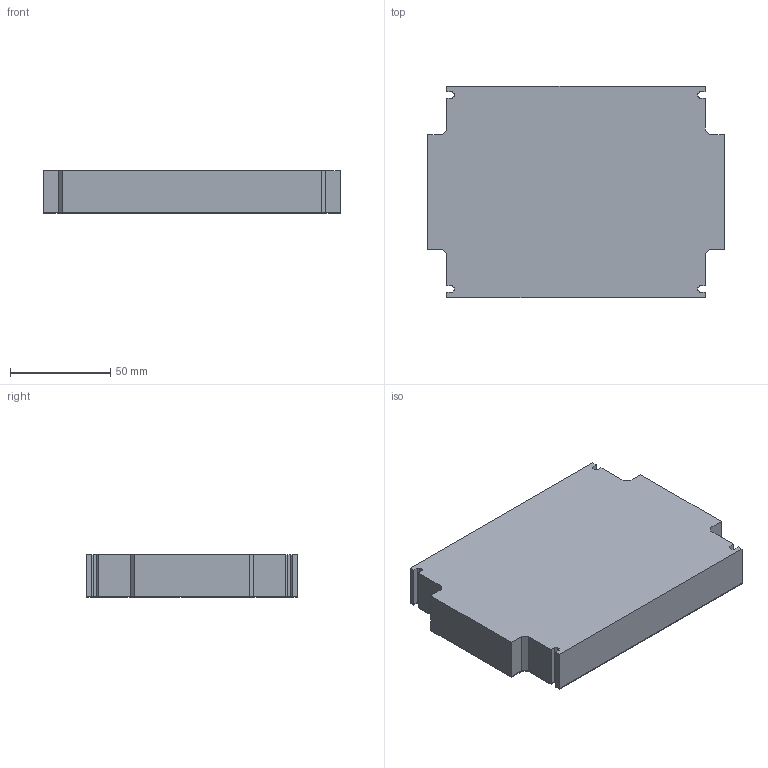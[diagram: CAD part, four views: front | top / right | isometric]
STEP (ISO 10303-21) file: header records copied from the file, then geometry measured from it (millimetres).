
FILE_DESCRIPTION(('Open CASCADE Model'),'2;1');
FILE_NAME('Open CASCADE Shape Model','2025-04-29T12:59:37',('Author'),( 'Open CASCADE'),'Open CASCADE STEP processor 7.5','Open CASCADE 7.5' ,'Unknown');
FILE_SCHEMA(('AUTOMOTIVE_DESIGN { 1 0 10303 214 1 1 1 1 }'));
Length unit declared in the file: millimetre
Products named in the file (2): Open CASCADE STEP translator 7.5 1; Open CASCADE STEP translator 7.5 2
Bounding box: 148.2 x 105.61 x 21.41 mm (x, y, z)
Volume: 314433.5 mm3; surface area: 69921.5 mm2
Topology: 2 solids, 2 shells, 90 faces, 258 edges, 172 vertices
Faces by surface type: plane 82, cylinder 8
Entity records: 2934 total; most frequent: CARTESIAN_POINT 521, ORIENTED_EDGE 516, DIRECTION 456, EDGE_CURVE 258, LINE 242, VECTOR 242, VERTEX_POINT 172, AXIS2_PLACEMENT_3D 107
